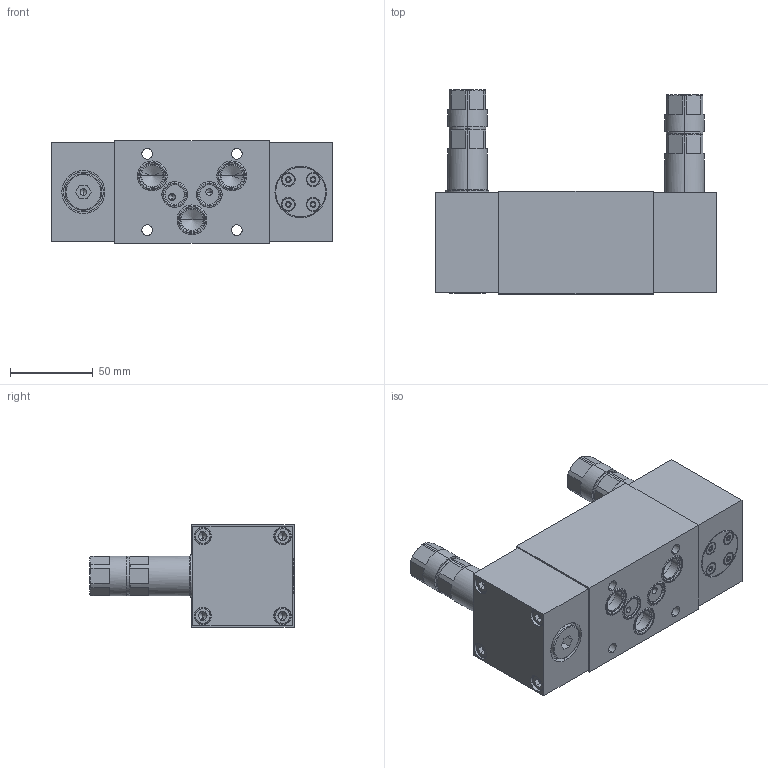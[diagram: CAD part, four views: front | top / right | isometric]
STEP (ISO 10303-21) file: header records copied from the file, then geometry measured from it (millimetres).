
FILE_DESCRIPTION (( 'STEP AP214' ), '1' );
FILE_NAME ('ASPLV102.STEP', '2017-03-22T13:52:04', ( '' ), ( '' ), 'SwSTEP 2.0', 'SolidWorks 2016', '' );
FILE_SCHEMA (( 'AUTOMOTIVE_DESIGN' ));
Length unit declared in the file: millimetre
Products named in the file (1): ASPLV102
Bounding box: 169 x 123.1 x 62 mm (x, y, z)
Volume: 662232 mm3; surface area: 96997.7 mm2
Topology: 21 solids, 34 shells, 2047 faces, 5490 edges, 3555 vertices
Faces by surface type: plane 1198, cylinder 542, cone 163, bspline 110, torus 34
Entity records: 91230 total; most frequent: CARTESIAN_POINT 16757, DIRECTION 10971, ORIENTED_EDGE 10860, EDGE_CURVE 5430, AXIS2_PLACEMENT_3D 3899, VERTEX_POINT 3555, VECTOR 3173, LINE 3173
